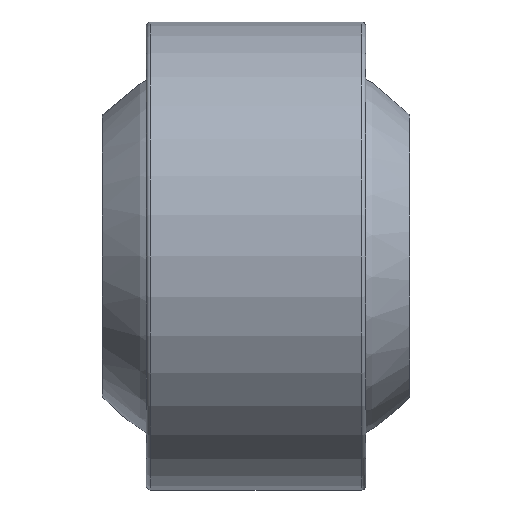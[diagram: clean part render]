
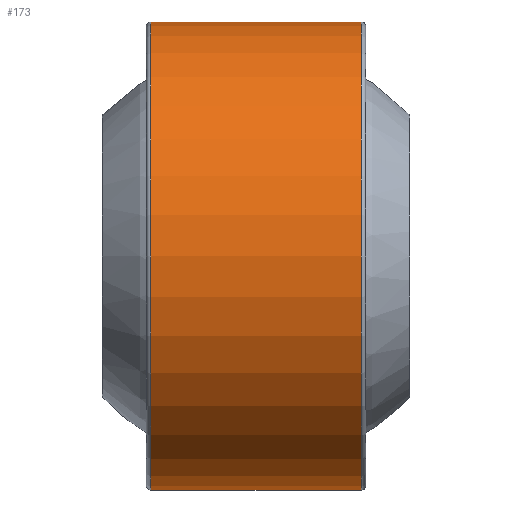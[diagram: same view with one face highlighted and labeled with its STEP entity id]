
A CAD part, front view. The second image highlights one B-rep face of the part: STEP entity #173.
In plain terms, the highlighted cylindrical face has radius 16 mm (diameter 32 mm), a full revolution.
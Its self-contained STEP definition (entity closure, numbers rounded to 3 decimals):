
#173 = ADVANCED_FACE( '', ( #195, #196, #197 ), #198, .T. );
#195 = FACE_OUTER_BOUND( '', #231, .T. );
#196 = FACE_BOUND( '', #232, .T. );
#197 = FACE_OUTER_BOUND( '', #233, .T. );
#198 = CYLINDRICAL_SURFACE( '', #234, 16. );
#231 = EDGE_LOOP( '', ( #274 ) );
#232 = EDGE_LOOP( '', ( #275 ) );
#233 = EDGE_LOOP( '', ( #276 ) );
#234 = AXIS2_PLACEMENT_3D( '', #277, #278, #279 );
#274 = ORIENTED_EDGE( '', *, *, #316, .T. );
#275 = ORIENTED_EDGE( '', *, *, #317, .T. );
#276 = ORIENTED_EDGE( '', *, *, #314, .F. );
#277 = CARTESIAN_POINT( '', ( 7.5, 0., 0. ) );
#278 = DIRECTION( '', ( -1., 0., 0. ) );
#279 = DIRECTION( '', ( 0., 0., -1. ) );
#314 = EDGE_CURVE( '', #330, #330, #331, .T. );
#316 = EDGE_CURVE( '', #334, #334, #335, .T. );
#317 = EDGE_CURVE( '', #336, #336, #337, .T. );
#330 = VERTEX_POINT( '', #354 );
#331 = CIRCLE( '', #355, 16. );
#334 = VERTEX_POINT( '', #358 );
#335 = CIRCLE( '', #359, 16. );
#336 = VERTEX_POINT( '', #360 );
#337 = B_SPLINE_CURVE_WITH_KNOTS( '', 3, ( #361, #362, #363, #364, #365, #366, #367, #368, #369, #370, #371, #372, #373, #374, #375, #376, #377, #378, #379, #380, #381, #382, #383, #384, #385, #386, #387, #388, #389, #390, #391, #392 ), .UNSPECIFIED., .T., .F., ( 2, 2, 2, 2, 2, 2, 2, 2, 2, 2, 2, 2, 2, 2, 2, 2, 2, 2 ), ( -0.001, 0., 0., 0.001, 0.001, 0.002, 0.002, 0.002, 0.003, 0.003, 0.004, 0.004, 0.005, 0.005, 0.005, 0.006, 0.007, 0.007 ), .UNSPECIFIED. );
#354 = CARTESIAN_POINT( '', ( 7.2, 0., -16. ) );
#355 = AXIS2_PLACEMENT_3D( '', #413, #414, #415 );
#358 = CARTESIAN_POINT( '', ( -7.2, 0., -16. ) );
#359 = AXIS2_PLACEMENT_3D( '', #419, #420, #421 );
#360 = CARTESIAN_POINT( '', ( 1.05, 16., 0. ) );
#361 = CARTESIAN_POINT( '', ( 1.05, 16., -0.278 ) );
#362 = CARTESIAN_POINT( '', ( 1.05, 16., 0.139 ) );
#363 = CARTESIAN_POINT( '', ( 1.023, 15.998, 0.275 ) );
#364 = CARTESIAN_POINT( '', ( 0.917, 15.992, 0.529 ) );
#365 = CARTESIAN_POINT( '', ( 0.839, 15.987, 0.646 ) );
#366 = CARTESIAN_POINT( '', ( 0.646, 15.978, 0.839 ) );
#367 = CARTESIAN_POINT( '', ( 0.528, 15.974, 0.918 ) );
#368 = CARTESIAN_POINT( '', ( 0.276, 15.967, 1.022 ) );
#369 = CARTESIAN_POINT( '', ( 0.138, 15.966, 1.05 ) );
#370 = CARTESIAN_POINT( '', ( -0.136, 15.966, 1.05 ) );
#371 = CARTESIAN_POINT( '', ( -0.274, 15.967, 1.023 ) );
#372 = CARTESIAN_POINT( '', ( -0.528, 15.974, 0.918 ) );
#373 = CARTESIAN_POINT( '', ( -0.644, 15.978, 0.841 ) );
#374 = CARTESIAN_POINT( '', ( -0.84, 15.987, 0.645 ) );
#375 = CARTESIAN_POINT( '', ( -0.917, 15.992, 0.529 ) );
#376 = CARTESIAN_POINT( '', ( -1.023, 15.998, 0.275 ) );
#377 = CARTESIAN_POINT( '', ( -1.05, 16., 0.137 ) );
#378 = CARTESIAN_POINT( '', ( -1.05, 16., -0.137 ) );
#379 = CARTESIAN_POINT( '', ( -1.023, 15.998, -0.275 ) );
#380 = CARTESIAN_POINT( '', ( -0.918, 15.992, -0.528 ) );
#381 = CARTESIAN_POINT( '', ( -0.84, 15.987, -0.645 ) );
#382 = CARTESIAN_POINT( '', ( -0.646, 15.978, -0.839 ) );
#383 = CARTESIAN_POINT( '', ( -0.53, 15.974, -0.917 ) );
#384 = CARTESIAN_POINT( '', ( -0.276, 15.967, -1.022 ) );
#385 = CARTESIAN_POINT( '', ( -0.14, 15.966, -1.05 ) );
#386 = CARTESIAN_POINT( '', ( 0.138, 15.966, -1.05 ) );
#387 = CARTESIAN_POINT( '', ( 0.274, 15.967, -1.023 ) );
#388 = CARTESIAN_POINT( '', ( 0.529, 15.974, -0.918 ) );
#389 = CARTESIAN_POINT( '', ( 0.645, 15.978, -0.84 ) );
#390 = CARTESIAN_POINT( '', ( 0.936, 15.992, -0.549 ) );
#391 = CARTESIAN_POINT( '', ( 1.05, 16., -0.278 ) );
#392 = CARTESIAN_POINT( '', ( 1.05, 16., 0.139 ) );
#413 = CARTESIAN_POINT( '', ( 7.2, 0., 0. ) );
#414 = DIRECTION( '', ( 1., 0., 0. ) );
#415 = DIRECTION( '', ( 0., 0., -1. ) );
#419 = CARTESIAN_POINT( '', ( -7.2, 0., 0. ) );
#420 = DIRECTION( '', ( 1., 0., 0. ) );
#421 = DIRECTION( '', ( 0., 0., -1. ) );
